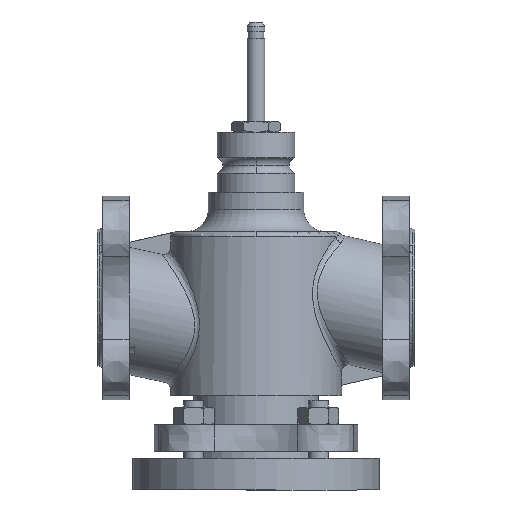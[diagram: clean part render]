
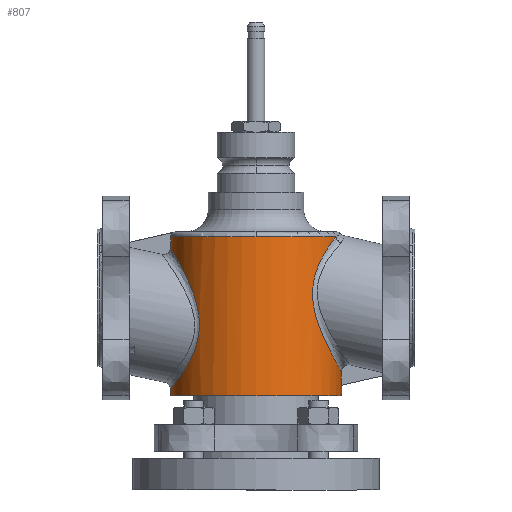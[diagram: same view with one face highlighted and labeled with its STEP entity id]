
A CAD part, left-side view. The second image highlights one B-rep face of the part: STEP entity #807.
In plain terms, the highlighted cylindrical face has radius 48.529 mm (diameter 97.059 mm), a partial arc.
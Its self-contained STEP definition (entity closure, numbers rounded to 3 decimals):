
#129=FACE_OUTER_BOUND('',#1328,.T.);
#304=CYLINDRICAL_SURFACE('',#3783,48.529);
#368=ELLIPSE('',#3782,49.745,48.529);
#374=LINE('',#5392,#532);
#375=LINE('',#5396,#533);
#380=LINE('',#5489,#538);
#388=LINE('',#5648,#546);
#532=VECTOR('',#4166,1.);
#533=VECTOR('',#4169,1.);
#538=VECTOR('',#4184,1.);
#546=VECTOR('',#4218,1.);
#807=ADVANCED_FACE('',(#129),#304,.T.);
#1118=B_SPLINE_CURVE_WITH_KNOTS('',3,(#5621,#5622,#5623,#5624,#5625,#5626,
#5627,#5628,#5629,#5630,#5631,#5632,#5633,#5634,#5635,#5636,#5637,#5638,
#5639,#5640,#5641,#5642,#5643,#5644),.UNSPECIFIED.,.F.,.F.,(4,2,2,2,2,2,
2,2,2,2,2,4),(0.,0.077,0.173,0.304,
0.444,0.518,0.591,0.682,
0.806,0.902,0.998,1.),.UNSPECIFIED.);
#1119=B_SPLINE_CURVE_WITH_KNOTS('',3,(#5650,#5651,#5652,#5653,#5654,#5655,
#5656,#5657,#5658,#5659,#5660,#5661,#5662,#5663,#5664,#5665,#5666,#5667,
#5668,#5669),.UNSPECIFIED.,.F.,.F.,(4,2,2,2,2,2,2,2,2,4),(0.,0.126,
0.253,0.36,0.445,0.53,
0.633,0.756,0.953,1.),.UNSPECIFIED.);
#1328=EDGE_LOOP('',(#1668,#1669,#1670,#1671,#1672,#1673,#1674,#1675,#1676,
#1677));
#1668=ORIENTED_EDGE('',*,*,#3086,.F.);
#1669=ORIENTED_EDGE('',*,*,#3087,.F.);
#1670=ORIENTED_EDGE('',*,*,#3067,.T.);
#1671=ORIENTED_EDGE('',*,*,#3088,.F.);
#1672=ORIENTED_EDGE('',*,*,#3054,.F.);
#1673=ORIENTED_EDGE('',*,*,#3089,.T.);
#1674=ORIENTED_EDGE('',*,*,#3052,.F.);
#1675=ORIENTED_EDGE('',*,*,#3090,.T.);
#1676=ORIENTED_EDGE('',*,*,#3091,.T.);
#1677=ORIENTED_EDGE('',*,*,#3092,.F.);
#2697=VERTEX_POINT('',#5391);
#2698=VERTEX_POINT('',#5393);
#2699=VERTEX_POINT('',#5395);
#2700=VERTEX_POINT('',#5397);
#2711=VERTEX_POINT('',#5488);
#2712=VERTEX_POINT('',#5490);
#2724=VERTEX_POINT('',#5618);
#2725=VERTEX_POINT('',#5619);
#2726=VERTEX_POINT('',#5647);
#2727=VERTEX_POINT('',#5649);
#3052=EDGE_CURVE('',#2697,#2698,#374,.T.);
#3054=EDGE_CURVE('',#2699,#2700,#375,.T.);
#3067=EDGE_CURVE('',#2712,#2711,#380,.T.);
#3086=EDGE_CURVE('',#2724,#2725,#3572,.T.);
#3087=EDGE_CURVE('',#2712,#2724,#3573,.T.);
#3088=EDGE_CURVE('',#2700,#2711,#1118,.T.);
#3089=EDGE_CURVE('',#2699,#2698,#3574,.T.);
#3090=EDGE_CURVE('',#2697,#2726,#368,.T.);
#3091=EDGE_CURVE('',#2726,#2727,#388,.T.);
#3092=EDGE_CURVE('',#2725,#2727,#1119,.T.);
#3572=CIRCLE('',#3779,48.529);
#3573=CIRCLE('',#3780,48.529);
#3574=CIRCLE('',#3781,48.529);
#3779=AXIS2_PLACEMENT_3D('',#5617,#4210,#4211);
#3780=AXIS2_PLACEMENT_3D('',#5620,#4212,#4213);
#3781=AXIS2_PLACEMENT_3D('',#5645,#4214,#4215);
#3782=AXIS2_PLACEMENT_3D('',#5646,#4216,#4217);
#3783=AXIS2_PLACEMENT_3D('',#5670,#4219,#4220);
#4166=DIRECTION('',(0.,0.,-1.));
#4169=DIRECTION('',(0.,0.,1.));
#4184=DIRECTION('',(0.,0.,-1.));
#4210=DIRECTION('',(0.,0.,1.));
#4211=DIRECTION('',(0.,-1.,0.));
#4212=DIRECTION('',(0.,0.,1.));
#4213=DIRECTION('',(0.,-1.,0.));
#4214=DIRECTION('',(0.,0.,1.));
#4215=DIRECTION('',(0.,1.,0.));
#4216=DIRECTION('',(0.,-0.22,-0.976));
#4217=DIRECTION('',(0.,0.976,-0.22));
#4218=DIRECTION('',(0.,0.,1.));
#4219=DIRECTION('',(0.,0.,1.));
#4220=DIRECTION('',(0.,-1.,0.));
#5391=CARTESIAN_POINT('',(0.,141.471,-49.547));
#5392=CARTESIAN_POINT('',(0.,141.471,-49.547));
#5393=CARTESIAN_POINT('',(0.,141.471,-55.467));
#5395=CARTESIAN_POINT('',(0.,238.529,-55.467));
#5396=CARTESIAN_POINT('',(0.,238.529,-55.467));
#5397=CARTESIAN_POINT('',(0.,238.529,-51.825));
#5488=CARTESIAN_POINT('',(-2.689,238.455,28.62));
#5489=CARTESIAN_POINT('',(-2.689,238.455,34.686));
#5490=CARTESIAN_POINT('',(-2.689,238.455,34.686));
#5617=CARTESIAN_POINT('',(0.,190.,34.686));
#5618=CARTESIAN_POINT('',(-48.529,190.,34.686));
#5619=CARTESIAN_POINT('',(-17.443,144.714,34.686));
#5620=CARTESIAN_POINT('',(0.,190.,34.686));
#5621=CARTESIAN_POINT('',(0.,238.529,-51.825));
#5622=CARTESIAN_POINT('',(-3.035,238.529,-51.825));
#5623=CARTESIAN_POINT('',(-6.078,238.239,-51.466));
#5624=CARTESIAN_POINT('',(-12.637,237.001,-49.895));
#5625=CARTESIAN_POINT('',(-16.127,235.896,-48.482));
#5626=CARTESIAN_POINT('',(-23.457,232.732,-44.154));
#5627=CARTESIAN_POINT('',(-27.112,230.408,-40.821));
#5628=CARTESIAN_POINT('',(-32.953,225.833,-32.526));
#5629=CARTESIAN_POINT('',(-35.101,223.536,-27.265));
#5630=CARTESIAN_POINT('',(-36.409,222.092,-18.341));
#5631=CARTESIAN_POINT('',(-36.505,221.978,-15.177));
#5632=CARTESIAN_POINT('',(-36.061,222.478,-8.913));
#5633=CARTESIAN_POINT('',(-35.534,223.07,-5.882));
#5634=CARTESIAN_POINT('',(-33.822,224.828,0.642));
#5635=CARTESIAN_POINT('',(-32.505,226.096,4.067));
#5636=CARTESIAN_POINT('',(-28.713,229.226,11.517));
#5637=CARTESIAN_POINT('',(-25.933,231.192,15.447));
#5638=CARTESIAN_POINT('',(-19.994,234.317,21.365));
#5639=CARTESIAN_POINT('',(-16.997,235.586,23.633));
#5640=CARTESIAN_POINT('',(-10.378,237.532,27.049));
#5641=CARTESIAN_POINT('',(-6.675,238.216,28.213));
#5642=CARTESIAN_POINT('',(-2.832,238.447,28.606));
#5643=CARTESIAN_POINT('',(-2.76,238.451,28.613));
#5644=CARTESIAN_POINT('',(-2.689,238.455,28.62));
#5645=CARTESIAN_POINT('',(0.,190.,-55.467));
#5646=CARTESIAN_POINT('',(0.,190.,-60.476));
#5647=CARTESIAN_POINT('',(-2.689,141.545,-49.564));
#5648=CARTESIAN_POINT('',(-2.689,141.545,-49.564));
#5649=CARTESIAN_POINT('',(-2.689,141.545,-41.975));
#5650=CARTESIAN_POINT('',(-17.448,144.72,34.683));
#5651=CARTESIAN_POINT('',(-21.047,146.113,32.845));
#5652=CARTESIAN_POINT('',(-24.277,147.853,30.44));
#5653=CARTESIAN_POINT('',(-29.728,151.501,24.655));
#5654=CARTESIAN_POINT('',(-31.999,153.447,21.195));
#5655=CARTESIAN_POINT('',(-34.949,156.279,14.021));
#5656=CARTESIAN_POINT('',(-35.855,157.292,10.314));
#5657=CARTESIAN_POINT('',(-36.496,158.01,3.491));
#5658=CARTESIAN_POINT('',(-36.444,157.951,0.344));
#5659=CARTESIAN_POINT('',(-35.778,157.208,-5.704));
#5660=CARTESIAN_POINT('',(-35.172,156.543,-8.639));
#5661=CARTESIAN_POINT('',(-33.351,154.718,-14.873));
#5662=CARTESIAN_POINT('',(-32.049,153.502,-18.078));
#5663=CARTESIAN_POINT('',(-28.556,150.686,-24.718));
#5664=CARTESIAN_POINT('',(-26.243,149.061,-28.055));
#5665=CARTESIAN_POINT('',(-19.208,145.16,-35.661));
#5666=CARTESIAN_POINT('',(-13.667,142.998,-39.441));
#5667=CARTESIAN_POINT('',(-5.825,141.797,-41.539));
#5668=CARTESIAN_POINT('',(-4.263,141.635,-41.821));
#5669=CARTESIAN_POINT('',(-2.688,141.547,-41.973));
#5670=CARTESIAN_POINT('',(0.,190.,-8.763));
